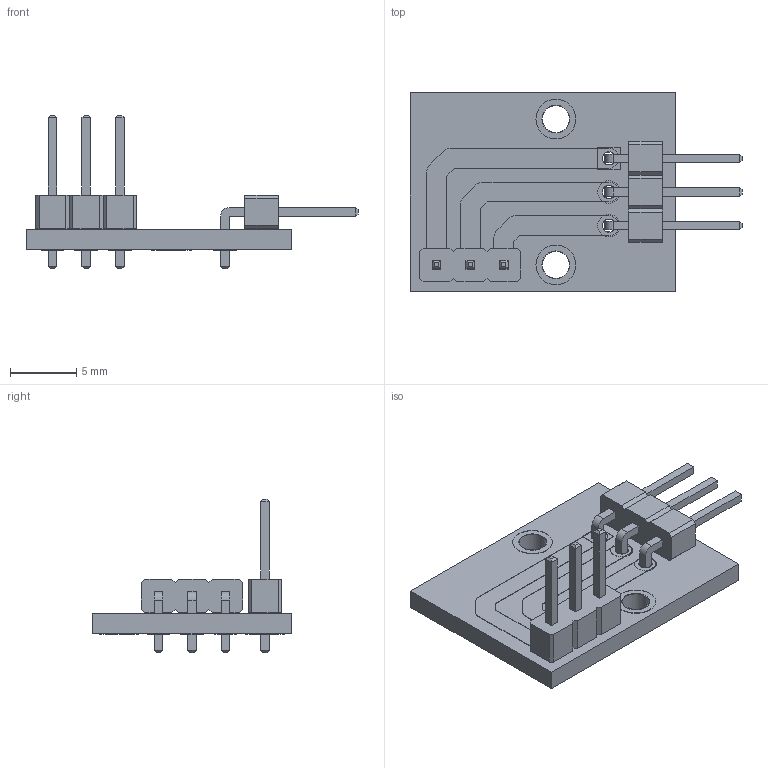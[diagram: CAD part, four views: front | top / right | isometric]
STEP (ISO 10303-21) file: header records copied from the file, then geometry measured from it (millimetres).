
FILE_DESCRIPTION(('KiCad electronic assembly'),'2;1');
FILE_NAME('cromira_neo_connector.step','2025-05-30T08:43:07',('Pcbnew'), ('Kicad'),'Open CASCADE STEP processor 7.8','KiCad to STEP converter', 'Unknown');
FILE_SCHEMA(('AUTOMOTIVE_DESIGN { 1 0 10303 214 1 1 1 1 }'));
Length unit declared in the file: millimetre
Products named in the file (7): cromira_neo_connector 1; PinHeader_1x03_P2.54mm_Horizontal; PinHeader_1x03_P2.54mm_Vertical; cromira_neo_connector_copper; cromira_neo_connector_pad; cromira_neo_connector_via; cromira_neo_connector_PCB
Assembly tree (6 placements, depth 2):
  cromira_neo_connector 1
    PinHeader_1x03_P2.54mm_Horizontal
    PinHeader_1x03_P2.54mm_Vertical
    cromira_neo_connector_copper
    cromira_neo_connector_pad
    cromira_neo_connector_via
    cromira_neo_connector_PCB
Bounding box: 25.04 x 15 x 11.54 mm (x, y, z)
Volume: 561.8 mm3; surface area: 1388.8 mm2
Topology: 30 solids, 30 shells, 325 faces, 711 edges, 458 vertices
Faces by surface type: plane 252, cylinder 73
Full cylindrical faces by diameter (mm): 0.95 x18, 1 x18, 1.7 x8, 2.05 x2, 2.1 x8, 3 x4
Entity records: 10333 total; most frequent: DIRECTION 1521, CARTESIAN_POINT 1501, ORIENTED_EDGE 1422, EDGE_CURVE 711, LINE 565, VECTOR 565, AXIS2_PLACEMENT_3D 478, VERTEX_POINT 458
